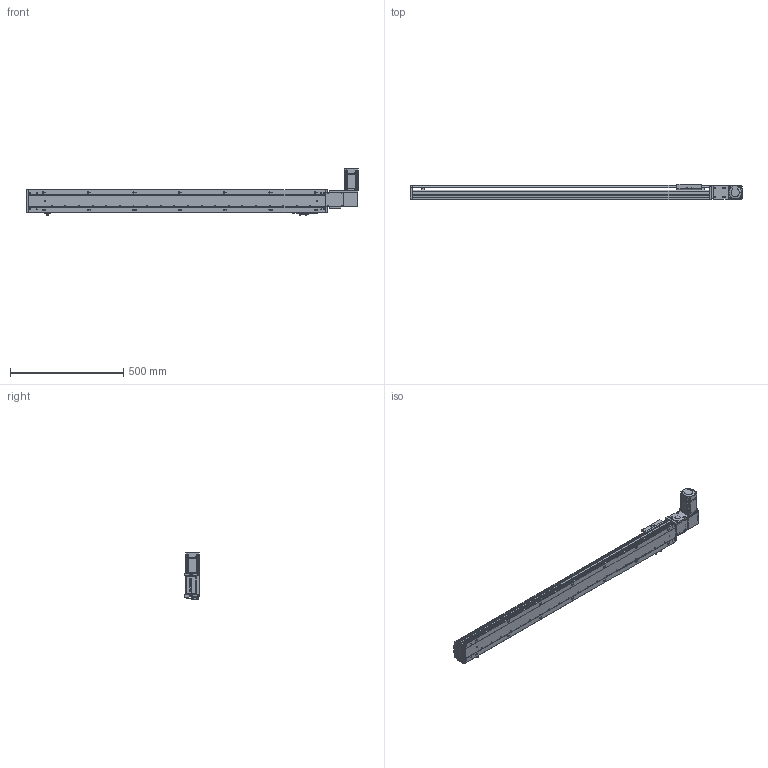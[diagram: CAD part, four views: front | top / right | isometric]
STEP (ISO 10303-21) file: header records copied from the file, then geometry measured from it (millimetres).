
FILE_DESCRIPTION (( 'STEP AP203' ), '1' );
FILE_NAME ('RY100-T-300-RK.SLDASM_1100.step', '2024-04-25T08:22:43', ( '盈信电脑' ), ( '东莞市道滘镇水果街19号' ), 'SwSTEP 2.0', 'SolidWorks 2016', '' );
FILE_SCHEMA (( 'CONFIG_CONTROL_DESIGN' ));
Length unit declared in the file: millimetre
Products named in the file (15): RY100俋离覜茼え; 1; RY100-T翋肮祭謫裔啣2; 侂狟200W萇儂; RY100綴裔啣; RY100-T-300-RK倰第奻裔_1100; RY80-T肮祭謫俋欶; 滅袉蝶18-10; RY100-T粣創揤踡裔; RY100-T-300-RK倰第菁釱_1100; RY100-T左右折电机安装板; RY100-T肮祭謫翋盓傅釱; 覜茼ん672; RY100-T肮祭謫臏賑輸; RY100-T-300-RK.SLDASM_1100
Assembly tree (18 placements, depth 3):
  RY100-T-300-RK.SLDASM_1100
    RY100-T-300-RK倰第菁釱_1100
    RY100-T-300-RK倰第奻裔_1100
    RY100-T肮祭謫臏賑輸
    RY100綴裔啣
    覜茼ん672  x3
    RY100俋离覜茼え
    RY100-T肮祭謫翋盓傅釱
    RY100-T左右折电机安装板
    侂狟200W萇儂
      1
    RY100-T粣創揤踡裔
    滅袉蝶18-10  x2
    RY100-T翋肮祭謫裔啣2  x2
    RY80-T肮祭謫俋欶
Bounding box: 1464 x 66 x 209.7 mm (x, y, z)
Volume: 2786435.8 mm3; surface area: 1149212.1 mm2
Topology: 17 solids, 17 shells, 2185 faces, 6081 edges, 3953 vertices
Faces by surface type: plane 1189, cylinder 787, cone 131, bspline 78
Entity records: 69831 total; most frequent: CARTESIAN_POINT 16847, ORIENTED_EDGE 10898, DIRECTION 10373, EDGE_CURVE 5449, VERTEX_POINT 3589, LINE 3529, VECTOR 3529, AXIS2_PLACEMENT_3D 3422
